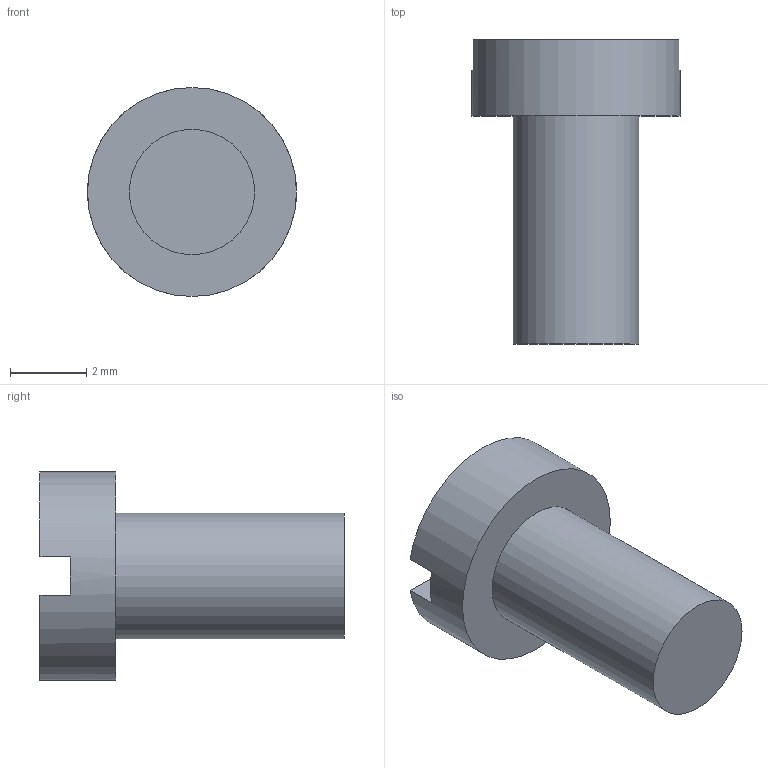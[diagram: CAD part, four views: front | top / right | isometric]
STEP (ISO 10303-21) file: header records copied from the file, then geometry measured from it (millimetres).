
FILE_DESCRIPTION(('FreeCAD Model'),'2;1');
FILE_NAME('Open CASCADE Shape Model','2026-10-30T14:44:42',('FreeCAD'),( 'FreeCAD'),'Open CASCADE STEP processor 7.8','FreeCAD','Unknown');
FILE_SCHEMA(('AUTOMOTIVE_DESIGN { 1 0 10303 214 1 1 1 1 }'));
Length unit declared in the file: millimetre
Products named in the file (1): Open CASCADE STEP translator 7.8 9
Bounding box: 5.5 x 8 x 5.5 mm (x, y, z)
Volume: 94.5 mm3; surface area: 151.3 mm2
Topology: 1 solids, 1 shells, 9 faces, 18 edges, 12 vertices
Faces by surface type: plane 7, cylinder 2
Full cylindrical faces by diameter (mm): 3.3 x1, 5.5 x1
Entity records: 250 total; most frequent: DIRECTION 46, CARTESIAN_POINT 40, ORIENTED_EDGE 36, AXIS2_PLACEMENT_3D 18, EDGE_CURVE 18, VERTEX_POINT 12, FACE_BOUND 10, EDGE_LOOP 10
